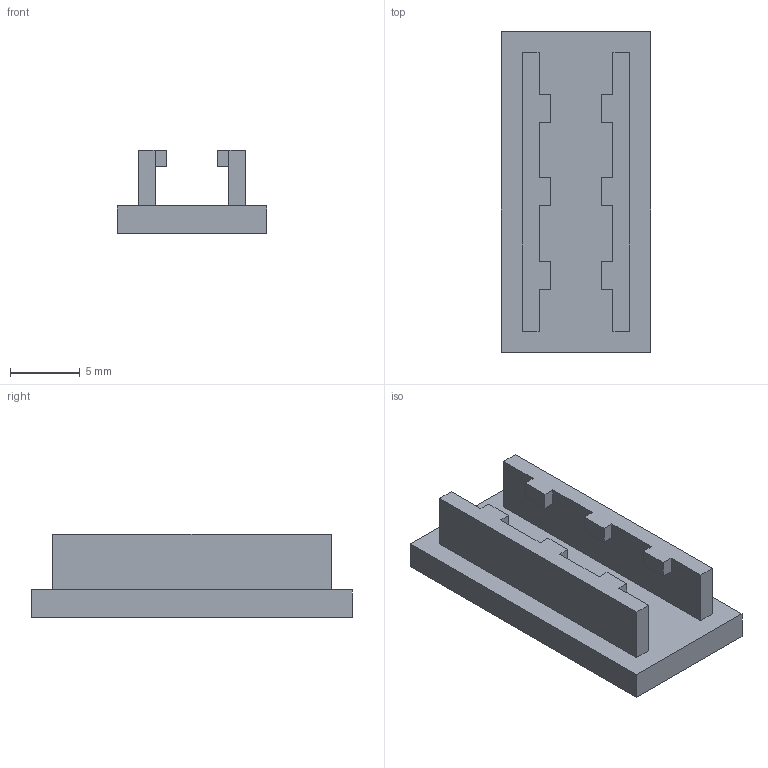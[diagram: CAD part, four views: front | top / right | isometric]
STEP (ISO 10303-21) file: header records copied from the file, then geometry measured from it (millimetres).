
FILE_DESCRIPTION(('Open CASCADE Model'),'2;1');
FILE_NAME('Open CASCADE Shape Model','2026-09-09T11:51:03',('Author'),( 'Open CASCADE'),'Open CASCADE STEP processor 7.7','Open CASCADE 7.7' ,'Unknown');
FILE_SCHEMA(('AUTOMOTIVE_DESIGN { 1 0 10303 214 1 1 1 1 }'));
Length unit declared in the file: millimetre
Products named in the file (1): Open CASCADE STEP translator 7.7 2
Bounding box: 10.7 x 23 x 6 mm (x, y, z)
Volume: 692.8 mm3; surface area: 995.7 mm2
Topology: 1 solids, 1 shells, 42 faces, 114 edges, 76 vertices
Faces by surface type: plane 41, cylinder 1
Entity records: 2792 total; most frequent: CARTESIAN_POINT 461, DIRECTION 430, LINE 338, VECTOR 338, ORIENTED_EDGE 228, PCURVE 228, DEFINITIONAL_REPRESENTATION 228, EDGE_CURVE 114
